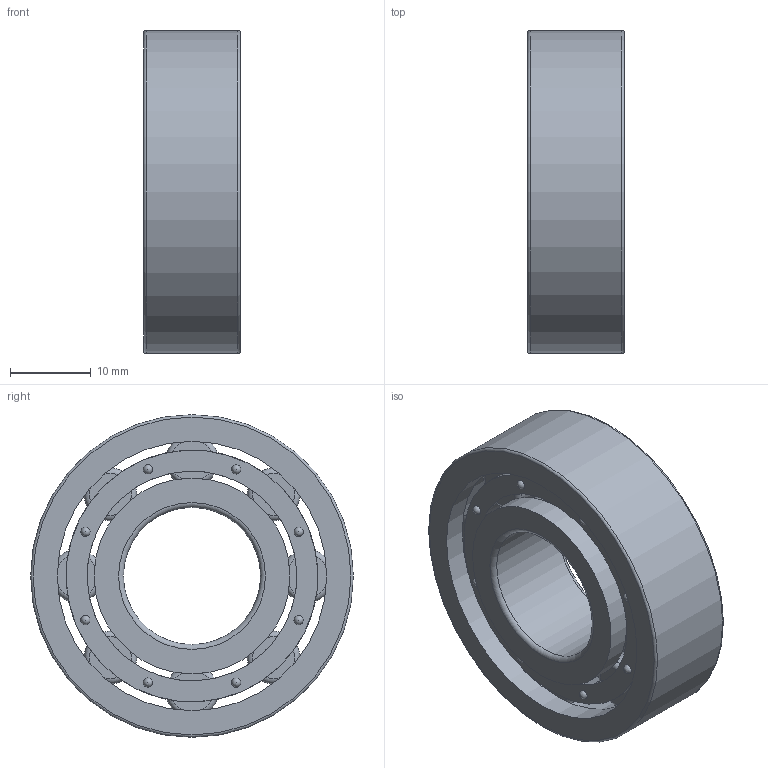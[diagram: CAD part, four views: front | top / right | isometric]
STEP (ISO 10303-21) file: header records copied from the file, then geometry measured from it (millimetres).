
FILE_DESCRIPTION(/* description */ (''),/* implementation_level */ '2;1');
FILE_NAME(/* name */ 'C:\MOJE SUBORY\03_Doplnenie 3D modelov\nove_2024\STEP\NF203M.stp',/* time_stamp */ '2024-04-22T13:28:19+02:00',/* author */ ('OUPIONTEKM'),/* organization */ (''),/* preprocessor_version */ 'ST-DEVELOPER v19',/* originating_system */ 'Autodesk Inventor 2023',/* authorisation */ '');
FILE_SCHEMA (('AUTOMOTIVE_DESIGN { 1 0 10303 214 3 1 1 }'));
Length unit declared in the file: millimetre
Products named in the file (8): NF203M; NF203M-02; NF203M-roller; NF203M-01; NF203M-M,EMcage; NF203M-M,EMcage01; NF203M-M,EMcage02; NF203M-M,EMcage03
Assembly tree (21 placements, depth 3):
  NF203M
    NF203M-02
    NF203M-roller  x8
    NF203M-01
    NF203M-M,EMcage
      NF203M-M,EMcage01
      NF203M-M,EMcage02
      NF203M-M,EMcage03  x8
Bounding box: 12 x 40 x 40 mm (x, y, z)
Volume: 8643.5 mm3; surface area: 9444.9 mm2
Topology: 20 solids, 20 shells, 154 faces, 333 edges, 221 vertices
Faces by surface type: cylinder 59, plane 58, torus 20, sphere 16, cone 1
Full cylindrical faces by diameter (mm): 0.65 x24, 6.5 x8, 17 x1, 22.1 x1, 24.267 x2, 26 x2, 31.2 x2, 33.379 x1, 35.1 x1, 40 x1
Entity records: 3037 total; most frequent: DIRECTION 574, CARTESIAN_POINT 455, ORIENTED_EDGE 410, AXIS2_PLACEMENT_3D 256, EDGE_CURVE 205, CIRCLE 143, VERTEX_POINT 137, EDGE_LOOP 128
